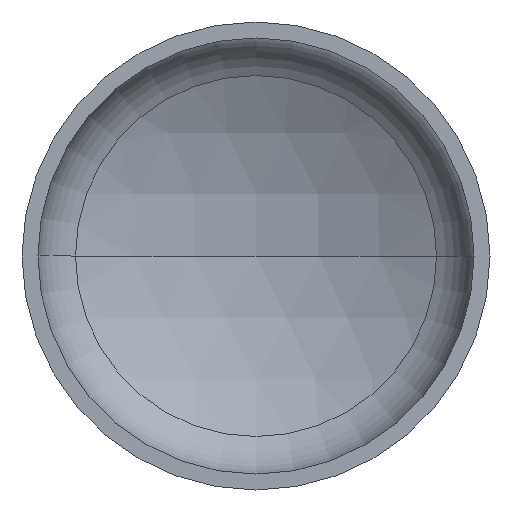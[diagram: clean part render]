
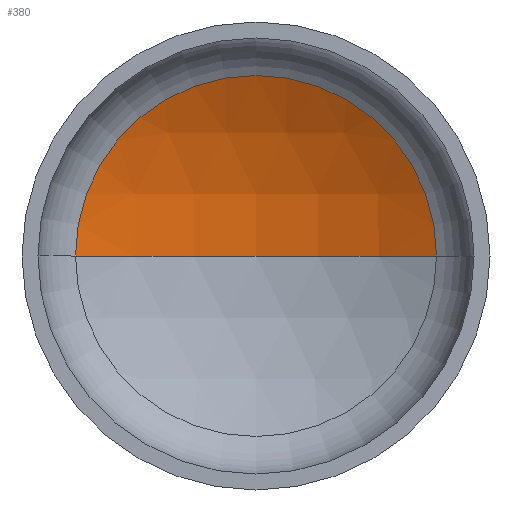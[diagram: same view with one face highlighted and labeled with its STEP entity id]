
A CAD part, front view. The second image highlights one B-rep face of the part: STEP entity #380.
In plain terms, the highlighted spherical face has radius 1600 mm.
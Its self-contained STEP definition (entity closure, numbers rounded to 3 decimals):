
#3 = DIRECTION ( 'NONE',  ( 0., -1., 0. ) ) ;
#5 = AXIS2_PLACEMENT_3D ( 'NONE', #18, #344, #228 ) ;
#6 = FACE_OUTER_BOUND ( 'NONE', #12, .T. ) ;
#12 = EDGE_LOOP ( 'NONE', ( #65, #312, #57 ) ) ;
#18 = CARTESIAN_POINT ( 'NONE',  ( 0., -1010.14, 0. ) ) ;
#28 = DIRECTION ( 'NONE',  ( 0., 0., -1. ) ) ;
#47 = VERTEX_POINT ( 'NONE', #249 ) ;
#51 = AXIS2_PLACEMENT_3D ( 'NONE', #128, #28, #382 ) ;
#52 = AXIS2_PLACEMENT_3D ( 'NONE', #139, #3, #135 ) ;
#57 = ORIENTED_EDGE ( 'NONE', *, *, #116, .T. ) ;
#65 = ORIENTED_EDGE ( 'NONE', *, *, #352, .F. ) ;
#116 = EDGE_CURVE ( 'NONE', #183, #47, #123, .T. ) ;
#118 = VERTEX_POINT ( 'NONE', #320 ) ;
#120 = EDGE_CURVE ( 'NONE', #118, #183, #350, .T. ) ;
#123 = CIRCLE ( 'NONE', #52, 771.473 ) ;
#128 = CARTESIAN_POINT ( 'NONE',  ( 0., -1010.14, 0. ) ) ;
#135 = DIRECTION ( 'NONE',  ( 1., 0., 0. ) ) ;
#139 = CARTESIAN_POINT ( 'NONE',  ( 0., 391.584, 0. ) ) ;
#183 = VERTEX_POINT ( 'NONE', #202 ) ;
#202 = CARTESIAN_POINT ( 'NONE',  ( 771.473, 391.584, 0. ) ) ;
#225 = SPHERICAL_SURFACE ( 'NONE', #268, 1600. ) ;
#228 = DIRECTION ( 'NONE',  ( 1., 0., 0. ) ) ;
#249 = CARTESIAN_POINT ( 'NONE',  ( -771.473, 391.584, 0. ) ) ;
#263 = CARTESIAN_POINT ( 'NONE',  ( 0., -1010.14, 0. ) ) ;
#268 = AXIS2_PLACEMENT_3D ( 'NONE', #263, #404, #387 ) ;
#312 = ORIENTED_EDGE ( 'NONE', *, *, #120, .T. ) ;
#320 = CARTESIAN_POINT ( 'NONE',  ( 0., 589.86, 0. ) ) ;
#344 = DIRECTION ( 'NONE',  ( 0., 0., 1. ) ) ;
#350 = CIRCLE ( 'NONE', #51, 1600. ) ;
#352 = EDGE_CURVE ( 'NONE', #118, #47, #370, .T. ) ;
#370 = CIRCLE ( 'NONE', #5, 1600. ) ;
#380 = ADVANCED_FACE ( 'NONE', ( #6 ), #225, .F. ) ;
#382 = DIRECTION ( 'NONE',  ( -1., 0., 0. ) ) ;
#387 = DIRECTION ( 'NONE',  ( -1., 0., 0. ) ) ;
#404 = DIRECTION ( 'NONE',  ( 0., 0., -1. ) ) ;
